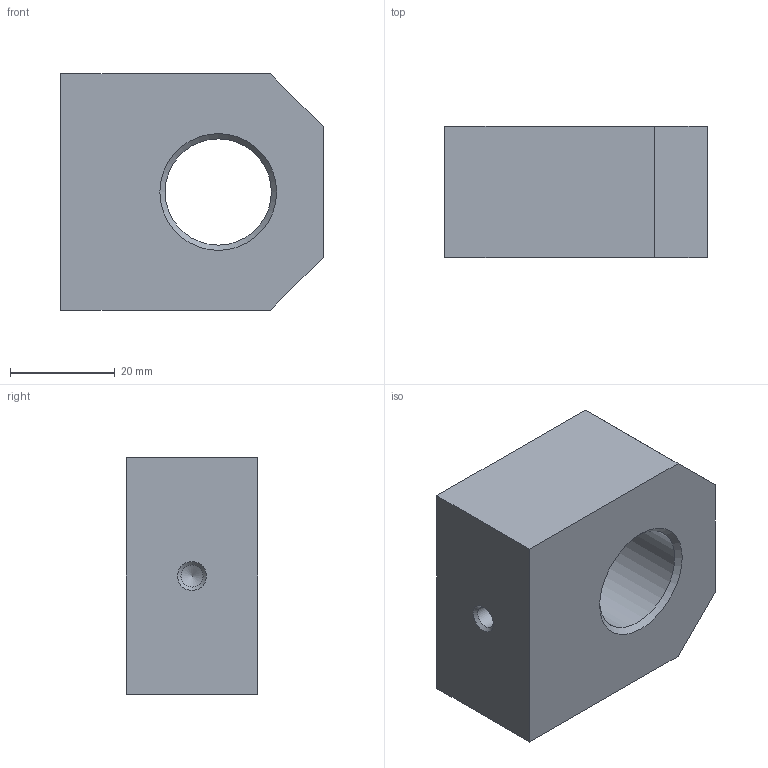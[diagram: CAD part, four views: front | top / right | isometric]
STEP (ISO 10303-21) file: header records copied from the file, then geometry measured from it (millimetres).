
FILE_DESCRIPTION( ( 'Unknown' ), '1' );
FILE_NAME( 'E:/LIBRERIA_3d/ACCESSORI/COF2000000.stp', 'Unknown', ( 'Unknown' ), ( 'Unknown' ), 'PSStep 17.0.49', 'Unknown', ' ' );
FILE_SCHEMA( ( 'AUTOMOTIVE_DESIGN { 1 0 10303 214 1 1 1 1 }' ) );
Length unit declared in the file: millimetre
Products named in the file (1): 1
Bounding box: 50 x 25 x 45 mm (x, y, z)
Volume: 45510.3 mm3; surface area: 9736.3 mm2
Topology: 1 solids, 1 shells, 14 faces, 35 edges, 23 vertices
Faces by surface type: plane 8, cone 4, cylinder 2
Full cylindrical faces by diameter (mm): 4.25 x1, 20.25 x1
Entity records: 375 total; most frequent: DIRECTION 62, CARTESIAN_POINT 60, ORIENTED_EDGE 50, EDGE_CURVE 25, AXIS2_PLACEMENT_3D 22, EDGE_LOOP 22, VERTEX_POINT 20, LINE 18
